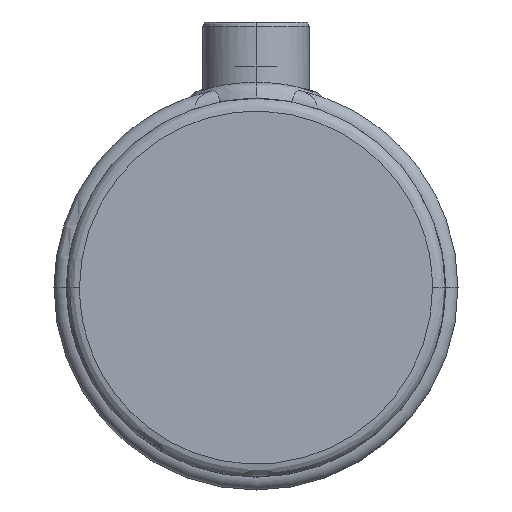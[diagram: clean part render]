
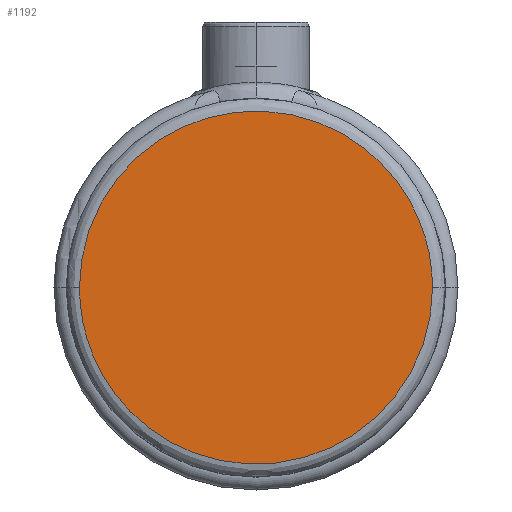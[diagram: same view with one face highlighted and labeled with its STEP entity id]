
A CAD part, top view. The second image highlights one B-rep face of the part: STEP entity #1192.
In plain terms, the highlighted planar face has unit normal (0, 0, 1).
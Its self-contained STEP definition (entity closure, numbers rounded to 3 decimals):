
#610 = EDGE_LOOP ( 'NONE', ( #1283, #9871 ) ) ;
#617 = PLANE ( 'NONE',  #6725 ) ;
#769 = CARTESIAN_POINT ( 'NONE',  ( -41.45, 0., 50. ) ) ;
#1192 = ADVANCED_FACE ( 'NONE', ( #1478 ), #617, .T. ) ;
#1283 = ORIENTED_EDGE ( 'NONE', *, *, #2806, .F. ) ;
#1478 = FACE_OUTER_BOUND ( 'NONE', #610, .T. ) ;
#2092 = CARTESIAN_POINT ( 'NONE',  ( 41.45, -82.9, 50. ) ) ;
#2112 = CARTESIAN_POINT ( 'NONE',  ( 41.45, 0., 50. ) ) ;
#2806 = EDGE_CURVE ( 'NONE', #4700, #8304, #7162, .T. ) ;
#3189 = DIRECTION ( 'NONE',  ( 0., -1., 0. ) ) ;
#3263 = CARTESIAN_POINT ( 'NONE',  ( 41.45, 82.9, 50. ) ) ;
#4558 = CARTESIAN_POINT ( 'NONE',  ( -41.45, 0., 50. ) ) ;
#4700 = VERTEX_POINT ( 'NONE', #2112 ) ;
#6456 = CARTESIAN_POINT ( 'NONE',  ( -41.45, 82.9, 50. ) ) ;
#6725 = AXIS2_PLACEMENT_3D ( 'NONE', #7178, #7989, #3189 ) ;
#7162 =( BOUNDED_CURVE ( )  B_SPLINE_CURVE ( 3, ( #9353, #2092, #7736, #4558 ),
 .UNSPECIFIED., .F., .F. ) 
 B_SPLINE_CURVE_WITH_KNOTS ( ( 4, 4 ),
 ( 0.25, 0.75 ),
 .UNSPECIFIED. ) 
 CURVE ( )  GEOMETRIC_REPRESENTATION_ITEM ( )  RATIONAL_B_SPLINE_CURVE ( ( 1., 0.333, 0.333, 1. ) ) 
 REPRESENTATION_ITEM ( '' )  );
#7178 = CARTESIAN_POINT ( 'NONE',  ( 0., 22.225, 50. ) ) ;
#7736 = CARTESIAN_POINT ( 'NONE',  ( -41.45, -82.9, 50. ) ) ;
#7989 = DIRECTION ( 'NONE',  ( 0., 0., 1. ) ) ;
#8179 = CARTESIAN_POINT ( 'NONE',  ( -41.45, 0., 50. ) ) ;
#8304 = VERTEX_POINT ( 'NONE', #8179 ) ;
#8885 = CARTESIAN_POINT ( 'NONE',  ( 41.45, 0., 50. ) ) ;
#8916 = EDGE_CURVE ( 'NONE', #8304, #4700, #9234, .T. ) ;
#9234 =( BOUNDED_CURVE ( )  B_SPLINE_CURVE ( 3, ( #769, #6456, #3263, #8885 ),
 .UNSPECIFIED., .F., .T. ) 
 B_SPLINE_CURVE_WITH_KNOTS ( ( 4, 4 ),
 ( 0.75, 1.25 ),
 .UNSPECIFIED. ) 
 CURVE ( )  GEOMETRIC_REPRESENTATION_ITEM ( )  RATIONAL_B_SPLINE_CURVE ( ( 1., 0.333, 0.333, 1. ) ) 
 REPRESENTATION_ITEM ( '' )  );
#9353 = CARTESIAN_POINT ( 'NONE',  ( 41.45, 0., 50. ) ) ;
#9871 = ORIENTED_EDGE ( 'NONE', *, *, #8916, .F. ) ;
